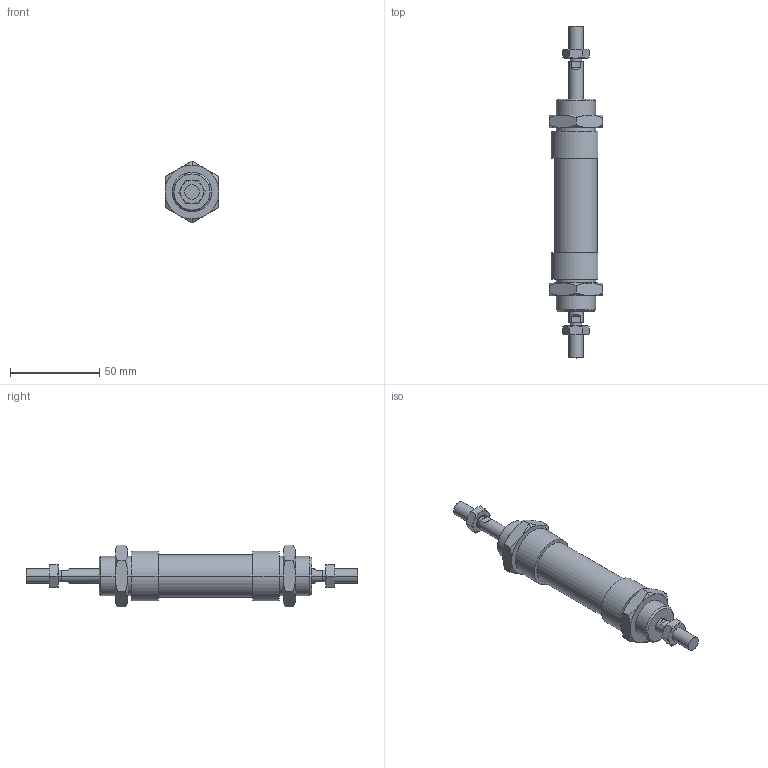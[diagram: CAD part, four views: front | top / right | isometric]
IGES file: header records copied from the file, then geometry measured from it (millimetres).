
Global section: file name: No Iges File Name specified; native system: AutoDesk Inventor R6.0; preprocessor: AutoDesk Inventor Iges Exporter R6.0; author: No Author specified; organization: No Organization specified; date: 20030403.072248; units: millimetre
Bounding box: 30 x 186 x 34.64 mm (x, y, z)
Volume: 64959.3 mm3; surface area: 23446.1 mm2
Topology: 6 solids, 6 shells, 186 faces, 414 edges, 244 vertices
Faces by surface type: cone 68, plane 60, bspline 32, cylinder 20, revolution 6
